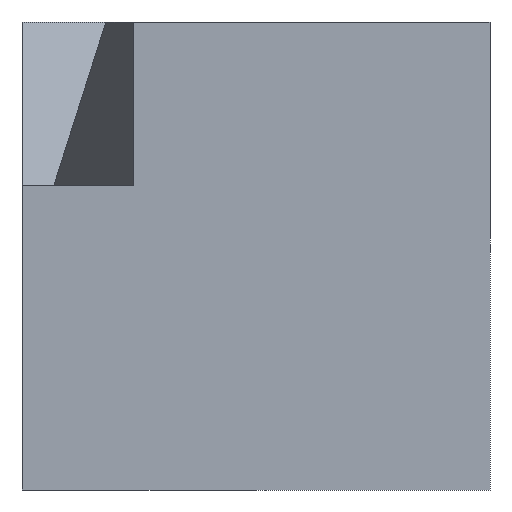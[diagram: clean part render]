
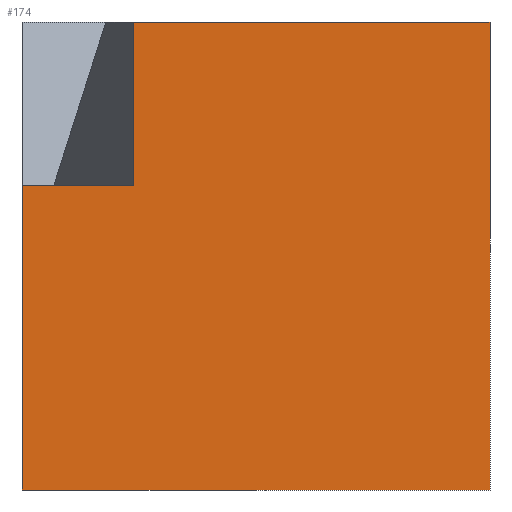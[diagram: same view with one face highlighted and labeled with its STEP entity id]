
A CAD part, left-side view. The second image highlights one B-rep face of the part: STEP entity #174.
In plain terms, the highlighted planar face has unit normal (-1, 0, 0).
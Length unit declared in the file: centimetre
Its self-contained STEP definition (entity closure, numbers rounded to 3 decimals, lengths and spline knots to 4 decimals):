
#9 = LINE ( 'NONE', #453, #10 ) ;
#10 = VECTOR ( 'NONE', #194, 100. ) ;
#13 = EDGE_CURVE ( 'NONE', #184, #365, #69, .T. ) ;
#19 = CARTESIAN_POINT ( 'NONE',  ( 0., 0., 1000. ) ) ;
#24 = LINE ( 'NONE', #100, #360 ) ;
#25 = VERTEX_POINT ( 'NONE', #26 ) ;
#26 = CARTESIAN_POINT ( 'NONE',  ( 0., 1000., 651.4161 ) ) ;
#28 = VECTOR ( 'NONE', #277, 100. ) ;
#30 = AXIS2_PLACEMENT_3D ( 'NONE', #384, #47, #199 ) ;
#33 = EDGE_CURVE ( 'NONE', #367, #223, #24, .T. ) ;
#47 = DIRECTION ( 'NONE',  ( 1., 0., 0. ) ) ;
#48 = VECTOR ( 'NONE', #171, 100. ) ;
#59 = EDGE_CURVE ( 'NONE', #25, #184, #65, .T. ) ;
#65 = LINE ( 'NONE', #327, #158 ) ;
#69 = LINE ( 'NONE', #149, #305 ) ;
#74 = ORIENTED_EDGE ( 'NONE', *, *, #253, .F. ) ;
#98 = ORIENTED_EDGE ( 'NONE', *, *, #13, .T. ) ;
#99 = DIRECTION ( 'NONE',  ( 0., 0., 1. ) ) ;
#100 = CARTESIAN_POINT ( 'NONE',  ( 0., 761.6392, 651.4161 ) ) ;
#149 = CARTESIAN_POINT ( 'NONE',  ( 0., 1000., 0. ) ) ;
#151 = CARTESIAN_POINT ( 'NONE',  ( 0., 761.6392, 651.4161 ) ) ;
#158 = VECTOR ( 'NONE', #463, 100. ) ;
#171 = DIRECTION ( 'NONE',  ( 0., -1., 0. ) ) ;
#174 = ADVANCED_FACE ( 'NONE', ( #341 ), #456, .F. ) ;
#175 = ORIENTED_EDGE ( 'NONE', *, *, #33, .F. ) ;
#184 = VERTEX_POINT ( 'NONE', #444 ) ;
#186 = VERTEX_POINT ( 'NONE', #247 ) ;
#194 = DIRECTION ( 'NONE',  ( 0., -1., 0. ) ) ;
#199 = DIRECTION ( 'NONE',  ( 0., 0., -1. ) ) ;
#204 = EDGE_CURVE ( 'NONE', #186, #365, #324, .T. ) ;
#223 = VERTEX_POINT ( 'NONE', #345 ) ;
#239 = EDGE_CURVE ( 'NONE', #25, #367, #9, .T. ) ;
#247 = CARTESIAN_POINT ( 'NONE',  ( 0., 0., 1000. ) ) ;
#253 = EDGE_CURVE ( 'NONE', #223, #186, #284, .T. ) ;
#258 = ORIENTED_EDGE ( 'NONE', *, *, #239, .F. ) ;
#277 = DIRECTION ( 'NONE',  ( 0., 0., -1. ) ) ;
#284 = LINE ( 'NONE', #288, #48 ) ;
#288 = CARTESIAN_POINT ( 'NONE',  ( 0., 1000., 1000. ) ) ;
#295 = DIRECTION ( 'NONE',  ( 0., -1., 0. ) ) ;
#305 = VECTOR ( 'NONE', #295, 100. ) ;
#324 = LINE ( 'NONE', #19, #28 ) ;
#327 = CARTESIAN_POINT ( 'NONE',  ( 0., 1000., 1000. ) ) ;
#341 = FACE_OUTER_BOUND ( 'NONE', #397, .T. ) ;
#345 = CARTESIAN_POINT ( 'NONE',  ( 0., 761.6392, 1000. ) ) ;
#360 = VECTOR ( 'NONE', #99, 100. ) ;
#365 = VERTEX_POINT ( 'NONE', #445 ) ;
#367 = VERTEX_POINT ( 'NONE', #151 ) ;
#375 = ORIENTED_EDGE ( 'NONE', *, *, #59, .T. ) ;
#384 = CARTESIAN_POINT ( 'NONE',  ( 0., 1000., 1000. ) ) ;
#397 = EDGE_LOOP ( 'NONE', ( #74, #175, #258, #375, #98, #404 ) ) ;
#404 = ORIENTED_EDGE ( 'NONE', *, *, #204, .F. ) ;
#444 = CARTESIAN_POINT ( 'NONE',  ( 0., 1000., 0. ) ) ;
#445 = CARTESIAN_POINT ( 'NONE',  ( 0., 0., 0. ) ) ;
#453 = CARTESIAN_POINT ( 'NONE',  ( 0., 1000., 651.4161 ) ) ;
#456 = PLANE ( 'NONE',  #30 ) ;
#463 = DIRECTION ( 'NONE',  ( 0., 0., -1. ) ) ;
